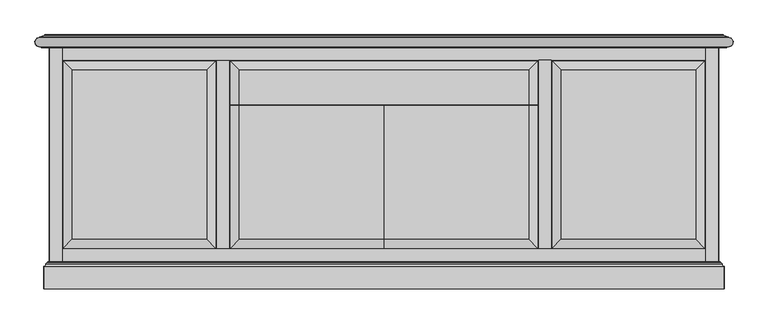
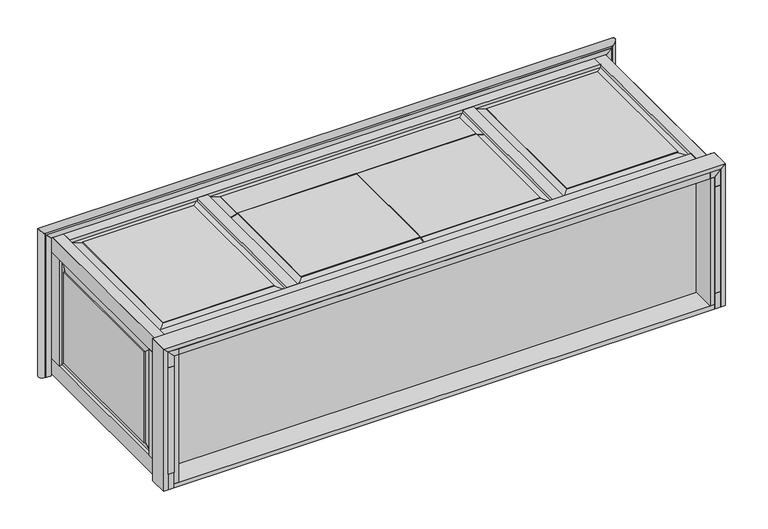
"""IFC4 building model written with IfcOpenShell, lengths in millimetres: proxy geometry, CAMBRIDGE^CREDENZA 2_26x96 4 DOOR 1 DRAWER-PARTS SOLID."""

from ifc_helpers import new_model, si_unit, frame, origin, place, context, project, spatial, polyline, circle_curve, ellipse_curve, outline, extrude, faceted_brep, source, transform, mapped, element, save
from ifc_brep_helpers import plane_surface, cylinder_surface, revolved_surface, advanced_brep


def generic_models_ff0544f8(model_context):
    return source(origin(), model_context, "Body", "SolidModel", [
        extrude(outline(polyline([(31.75, -857.25), (6.35, -857.25), (6.35, -717.55), (31.75, -717.55), (31.75, -857.25)])), frame((0.0, 0.0, -546.1), z_axis=(0.0, 0.0, 1.0), x_axis=(1.0, 0.0, 0.0)), (0.0, 0.0, 1.0), 476.25),
        extrude(outline(polyline([(0.0, 2298.7), (-25.4, 2298.7), (-25.4, 2317.75), (0.0, 2343.15), (0.0, 2298.7)])), frame((0.0, -857.25, 0.0), z_axis=(0.0, 1.0, 0.0), x_axis=(0.0, 0.0, 1.0)), (0.0, 0.0, 1.0), 857.25),
        extrude(outline(polyline([(-25.4, 31.75), (-25.4, 50.8), (0.0, 50.8), (0.0, 6.35), (-25.4, 31.75)])), frame((0.0, -857.25, 0.0), z_axis=(0.0, 1.0, 0.0), x_axis=(0.0, 0.0, 1.0)), (0.0, 0.0, 1.0), 857.25),
        extrude(outline(polyline([(2343.15, -857.25), (2317.75, -857.25), (2317.75, -717.55), (2343.15, -717.55), (2343.15, -857.25)])), frame((0.0, 0.0, -546.1), z_axis=(0.0, 0.0, 1.0), x_axis=(1.0, 0.0, 0.0)), (0.0, 0.0, 1.0), 476.25),
        extrude(outline(polyline([(0.0, 6.35), (-69.85, 6.35), (-69.85, 31.75), (-25.4, 31.75), (0.0, 6.35)])), frame((0.0, -857.25, 0.0), z_axis=(0.0, 1.0, 0.0), x_axis=(0.0, 0.0, 1.0)), (0.0, 0.0, 1.0), 857.25),
        faceted_brep([(2263.775, -682.625, -3.175), (2295.525, -714.375, -11.6823869), (2295.525, -60.325, -11.6823869), (2263.775, -92.075, -3.175), (2263.775, -682.625, 0.0), (2263.775, -92.075, 0.0), (1793.875, -682.625, -3.175), (1762.125, -714.375, -11.6823869), (1793.875, -682.625, 0.0), (1793.875, -92.075, -3.175), (1762.125, -60.325, -11.6823869), (1793.875, -92.075, 0.0), (2295.525, -60.325, -19.05), (1762.125, -60.325, -19.05), (2295.525, -714.375, -19.05), (1762.125, -714.375, -19.05)], [[[0, 1, 2, 3]], [[4, 0, 3, 5]], [[6, 7, 1, 0]], [[8, 6, 0, 4]], [[9, 10, 7, 6]], [[11, 9, 6, 8]], [[3, 2, 10, 9]], [[5, 3, 9, 11]], [[10, 2, 12, 13]], [[2, 1, 14, 12]], [[7, 10, 13, 15]], [[1, 7, 15, 14]], [[4, 5, 11, 8]], [[14, 15, 13, 12]]]),
        extrude(outline(polyline([(2343.15, -857.25), (2317.75, -857.25), (2317.75, 0.0), (2343.15, 0.0), (2343.15, -857.25)])), frame((0.0, 0.0, -615.95), z_axis=(0.0, 0.0, 1.0), x_axis=(1.0, 0.0, 0.0)), (0.0, 0.0, 1.0), 69.85),
        faceted_brep([(555.625, -682.625, 0.0), (555.625, -682.625, -3.175), (555.625, -92.075, -3.175), (555.625, -92.075, 0.0), (587.375, -714.375, -11.6823869), (587.375, -60.325, -11.6823869), (85.725, -682.625, 0.0), (85.725, -682.625, -3.175), (53.975, -714.375, -11.6823869), (85.725, -92.075, 0.0), (85.725, -92.075, -3.175), (53.975, -60.325, -11.6823869), (587.375, -60.325, -19.05), (53.975, -60.325, -19.05), (587.375, -714.375, -19.05), (53.975, -714.375, -19.05)], [[[0, 1, 2, 3]], [[1, 4, 5, 2]], [[6, 7, 1, 0]], [[7, 8, 4, 1]], [[9, 10, 7, 6]], [[10, 11, 8, 7]], [[2, 5, 11, 10]], [[3, 2, 10, 9]], [[11, 5, 12, 13]], [[5, 4, 14, 12]], [[8, 11, 13, 15]], [[4, 8, 15, 14]], [[0, 3, 9, 6]], [[14, 15, 13, 12]]]),
        extrude(outline(polyline([(0.0, 2343.15), (-25.4, 2317.75), (-69.85, 2317.75), (-69.85, 2343.15), (0.0, 2343.15)])), frame((0.0, -857.25, 0.0), z_axis=(0.0, 1.0, 0.0), x_axis=(0.0, 0.0, 1.0)), (0.0, 0.0, 1.0), 857.25),
        extrude(outline(polyline([(2298.7, -717.55), (2298.7, -857.25), (50.8, -857.25), (50.8, -717.55), (2298.7, -717.55)])), frame((0.0, 0.0, -25.4), z_axis=(0.0, 0.0, 1.0), x_axis=(1.0, 0.0, 0.0)), (0.0, 0.0, 1.0), 25.4),
        extrude(outline(polyline([(1714.5, -57.15), (1758.95, -57.15), (1758.95, -717.55), (1714.5, -717.55), (1714.5, -57.15)])), frame((0.0, 0.0, -25.4), z_axis=(0.0, 0.0, 1.0), x_axis=(1.0, 0.0, 0.0)), (0.0, 0.0, 1.0), 25.4),
        extrude(outline(polyline([(31.75, 0.0), (50.8, 0.0), (50.8, -857.25), (31.75, -857.25), (31.75, 0.0)])), frame((0.0, 0.0, -596.9), z_axis=(0.0, 0.0, 1.0), x_axis=(1.0, 0.0, 0.0)), (0.0, 0.0, 1.0), 571.5),
        advanced_brep(
        [(2362.2, -777.875, 19.05), (2355.85, -771.525, 12.7), (-6.35, -771.525, 12.7), (-12.7, -777.875, 19.05), (2349.5, -765.175, 6.35), (0.0, -765.175, 6.35), (2349.5, -762.0, 6.35), (0.0, -762.0, 6.35), (2343.15, -762.0, 0.0), (6.35, -762.0, 0.0), (2362.2, -857.25, 19.05), (2343.15, -857.25, 0.0), (-12.7, -857.25, 19.05), (6.35, -857.25, 0.0)],
        [
            (0, 1, ellipse_curve(frame((2362.2, -771.525, 19.05), z_axis=(0.7071067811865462, 0.0, -0.7071067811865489), x_axis=(-0.7071067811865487, 0.0, -0.7071067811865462)), 8.9802561, 6.35)),
            (1, 2),
            (2, 3, ellipse_curve(frame((-12.7, -771.525, 19.05), z_axis=(-0.7071067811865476, 0.0, -0.7071067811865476), x_axis=(-0.7071067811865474, 0.0, 0.7071067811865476)), 8.9802561, 6.35)),
            (3, 0),
            (1, 4, ellipse_curve(frame((2349.5, -771.525, 6.35), z_axis=(-0.7071067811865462, 0.0, 0.7071067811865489), x_axis=(-0.7071067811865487, 0.0, -0.7071067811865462)), 8.9802561, 6.35)),
            (4, 5),
            (5, 2, ellipse_curve(frame((0.0, -771.525, 6.35), z_axis=(0.7071067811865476, 0.0, 0.7071067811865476), x_axis=(-0.7071067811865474, 0.0, 0.7071067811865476)), 8.9802561, 6.35)),
            (4, 6),
            (6, 7),
            (7, 5),
            (6, 8),
            (8, 9),
            (9, 7),
            (0, 10),
            (10, 11),
            (11, 8),
            (3, 12),
            (12, 10),
            (9, 13),
            (13, 12),
            (11, 13),
        ],
        [
            revolved_surface(polyline([(-19.04999998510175, -771.525, 25.4), (2368.5499999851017, -771.525, 25.4)]), (2362.2, -771.525, 19.05), (-1.0, 0.0, 0.0)),
            cylinder_surface(frame((2349.5, -771.525, 6.35), z_axis=(-1.0, 0.0, 0.0), x_axis=(0.0, 0.0, 1.0)), 6.35),
            plane_surface(frame((2349.5, -762.0, 6.35), z_axis=(0.0, 0.0, 1.0), x_axis=(0.0, -1.0, 0.0))),
            plane_surface(frame((1174.75, -762.0, 9.525), z_axis=(0.0, 1.0, 0.0), x_axis=(0.0, 0.0, 1.0))),
            plane_surface(frame((2362.2, -857.25, 19.05), z_axis=(0.7071067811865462, 0.0, -0.7071067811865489), x_axis=(-0.7071067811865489, 0.0, -0.7071067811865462))),
            plane_surface(frame((-12.7, -857.25, 19.05), z_axis=(0.0, 0.0, 1.0), x_axis=(1.0, 0.0, 0.0))),
            plane_surface(frame((6.35, -857.25, 0.0), z_axis=(-0.7071067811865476, 0.0, -0.7071067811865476), x_axis=(-0.7071067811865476, 0.0, 0.7071067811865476))),
            plane_surface(frame((2343.15, -857.25, 0.0), z_axis=(0.0, 0.0, -1.0), x_axis=(-1.0, 0.0, 0.0))),
            plane_surface(frame((1174.75, -857.25, 9.525), z_axis=(0.0, -1.0, 0.0), x_axis=(0.0, 0.0, -1.0))),
        ],
        [
            (0, [[1, 2, 3, 4]]),
            (1, [[5, 6, 7, -2]]),
            (2, [[8, 9, 10, -6]]),
            (3, [[-9, 11, 12, 13]]),
            (4, [[-8, -5, -1, 14, 15, 16, -11]]),
            (5, [[-4, 17, 18, -14]]),
            (6, [[-10, -13, 19, 20, -17, -3, -7]]),
            (7, [[21, -19, -12, -16]]),
            (8, [[-15, -18, -20, -21]]),
        ],
    ),
        advanced_brep(
        [(2362.2, -777.875, -615.95), (2355.85, -771.525, -615.95), (2355.85, -771.525, 12.7), (2362.2, -777.875, 19.05), (2349.5, -765.175, -615.95), (2349.5, -765.175, 6.35), (2349.5, -762.0, -615.95), (2349.5, -762.0, 6.35), (2343.15, -762.0, 0.0), (2343.15, -857.25, 0.0), (2362.2, -857.25, 19.05), (2343.15, -762.0, -615.95), (2343.15, -857.25, -615.95), (2362.2, -857.25, -615.95)],
        [
            (0, 1, circle_curve(frame((2362.2, -771.525, -615.95), z_axis=(0.0, 0.0, -1.0), x_axis=(0.0, -1.0, 0.0)), 6.35)),
            (1, 2),
            (2, 3, ellipse_curve(frame((2362.2, -771.525, 19.05), z_axis=(-0.7071067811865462, 0.0, 0.7071067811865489), x_axis=(0.707106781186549, 0.0, 0.707106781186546)), 8.9802561, 6.35)),
            (3, 0),
            (1, 4, circle_curve(frame((2349.5, -771.525, -615.95), z_axis=(0.0, 0.0, 1.0), x_axis=(0.0, -1.0, 0.0)), 6.35)),
            (4, 5),
            (5, 2, ellipse_curve(frame((2349.5, -771.525, 6.35), z_axis=(0.7071067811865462, 0.0, -0.7071067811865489), x_axis=(0.707106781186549, 0.0, 0.707106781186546)), 8.9802561, 6.35)),
            (4, 6),
            (6, 7),
            (7, 5),
            (7, 8),
            (8, 9),
            (9, 10),
            (10, 3),
            (6, 11),
            (11, 8),
            (12, 9),
            (11, 12),
            (0, 13),
            (13, 12),
            (10, 13),
        ],
        [
            revolved_surface(polyline([(2362.2, -777.875, 25.399999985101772), (2362.2, -777.875, -615.95)]), (2362.2, -771.525, -615.95), (0.0, 0.0, 1.0)),
            cylinder_surface(frame((2349.5, -771.525, -615.95), z_axis=(0.0, 0.0, 1.0), x_axis=(0.0, -1.0, 0.0)), 6.35),
            plane_surface(frame((2349.5, -762.0, -615.95), z_axis=(1.0, 0.0, 0.0), x_axis=(0.0, -1.0, 0.0))),
            plane_surface(frame((2343.15, -857.25, 0.0), z_axis=(-0.7071067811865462, 0.0, 0.7071067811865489), x_axis=(0.7071067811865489, 0.0, 0.7071067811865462))),
            plane_surface(frame((2352.675, -762.0, -298.45), z_axis=(0.0, 1.0, 0.0), x_axis=(0.0, 0.0, 1.0))),
            plane_surface(frame((2343.15, -857.25, -615.95), z_axis=(-1.0, 0.0, 0.0), x_axis=(0.0, 0.0, 1.0))),
            plane_surface(frame((2362.2, -857.25, -615.95), z_axis=(0.0, 0.0, -1.0), x_axis=(-1.0, 0.0, 0.0))),
            plane_surface(frame((2362.2, -857.25, 19.05), z_axis=(1.0, 0.0, 0.0), x_axis=(0.0, 0.0, -1.0))),
            plane_surface(frame((2352.675, -857.25, -298.45), z_axis=(0.0, -1.0, 0.0), x_axis=(0.0, 0.0, -1.0))),
        ],
        [
            (0, [[1, 2, 3, 4]]),
            (1, [[5, 6, 7, -2]]),
            (2, [[8, 9, 10, -6]]),
            (3, [[-3, -7, -10, 11, 12, 13, 14]]),
            (4, [[-9, 15, 16, -11]]),
            (5, [[17, -12, -16, 18]]),
            (6, [[-1, 19, 20, -18, -15, -8, -5]]),
            (7, [[-4, -14, 21, -19]]),
            (8, [[-21, -13, -17, -20]]),
        ],
    ),
        extrude(outline(polyline([(6.35, 0.0), (31.75, 0.0), (31.75, -57.15), (6.35, -57.15), (6.35, 0.0)])), frame((0.0, 0.0, -546.1), z_axis=(0.0, 0.0, 1.0), x_axis=(1.0, 0.0, 0.0)), (0.0, 0.0, 1.0), 476.25),
        extrude(outline(polyline([(50.8, -717.55), (2298.7, -717.55), (2298.7, -755.65), (50.8, -755.65), (50.8, -717.55)])), frame((0.0, 0.0, -596.9), z_axis=(0.0, 0.0, 1.0), x_axis=(1.0, 0.0, 0.0)), (0.0, 0.0, 1.0), 571.5),
        faceted_brep([(2343.15, -682.625, -511.175), (2339.975, -682.625, -511.175), (2339.975, -92.075, -511.175), (2343.15, -92.075, -511.175), (2331.4676131, -714.375, -542.925), (2331.4676131, -60.325, -542.925), (2324.1, -714.375, -542.925), (2324.1, -60.325, -542.925), (2343.15, -682.625, -104.775), (2339.975, -682.625, -104.775), (2331.4676131, -714.375, -73.025), (2324.1, -714.375, -73.025), (2324.1, -57.15, -546.1), (2324.1, -57.15, -69.85), (2324.1, -717.55, -69.85), (2324.1, -717.55, -546.1), (2324.1, -60.325, -73.025), (2343.15, -92.075, -104.775), (2339.975, -92.075, -104.775), (2331.4676131, -60.325, -73.025), (2317.75, -717.55, -546.1), (2317.75, -57.15, -546.1), (2317.75, -717.55, -69.85), (2317.75, -57.15, -69.85)], [[[0, 1, 2, 3]], [[1, 4, 5, 2]], [[4, 6, 7, 5]], [[8, 9, 1, 0]], [[9, 10, 4, 1]], [[10, 11, 6, 4]], [[12, 13, 14, 15], [11, 16, 7, 6]], [[17, 18, 9, 8]], [[18, 19, 10, 9]], [[19, 16, 11, 10]], [[3, 2, 18, 17]], [[2, 5, 19, 18]], [[5, 7, 16, 19]], [[12, 15, 20, 21]], [[15, 14, 22, 20]], [[14, 13, 23, 22]], [[13, 12, 21, 23]], [[0, 3, 17, 8]], [[20, 22, 23, 21]]]),
        faceted_brep([(6.35, -682.625, -104.775), (9.525, -682.625, -104.775), (9.525, -92.075, -104.775), (6.35, -92.075, -104.775), (18.0323869, -714.375, -73.025), (18.0323869, -60.325, -73.025), (25.4, -714.375, -73.025), (25.4, -60.325, -73.025), (6.35, -682.625, -511.175), (9.525, -682.625, -511.175), (18.0323869, -714.375, -542.925), (25.4, -714.375, -542.925), (25.4, -57.15, -69.85), (25.4, -57.15, -546.1), (25.4, -717.55, -546.1), (25.4, -717.55, -69.85), (25.4, -60.325, -542.925), (6.35, -92.075, -511.175), (9.525, -92.075, -511.175), (18.0323869, -60.325, -542.925), (31.75, -717.55, -69.85), (31.75, -57.15, -69.85), (31.75, -717.55, -546.1), (31.75, -57.15, -546.1)], [[[0, 1, 2, 3]], [[1, 4, 5, 2]], [[4, 6, 7, 5]], [[8, 9, 1, 0]], [[9, 10, 4, 1]], [[10, 11, 6, 4]], [[12, 13, 14, 15], [11, 16, 7, 6]], [[17, 18, 9, 8]], [[18, 19, 10, 9]], [[19, 16, 11, 10]], [[3, 2, 18, 17]], [[2, 5, 19, 18]], [[5, 7, 16, 19]], [[12, 15, 20, 21]], [[15, 14, 22, 20]], [[14, 13, 23, 22]], [[13, 12, 21, 23]], [[0, 3, 17, 8]], [[20, 22, 23, 21]]]),
        advanced_brep(
        [(-27.4410714, -9.5412197, 27.4410714), (-28.575, 22.1682311, 28.575), (-28.575, 22.1682311, -615.95), (-27.4410714, -9.5412197, -615.95), (-28.575, 23.7557311, 28.575), (-28.575, 23.7557311, -615.95), (-13.7031721, 29.1686338, 13.7031721), (-13.7031721, 29.1686338, -615.95), (-10.5028814, 31.75, 10.5028814), (-10.5028814, 31.75, -615.95), (-21.4882387, -12.7, 21.4882387), (-21.4882387, -12.7, -615.95), (0.0, -12.7, -615.95), (0.0, -12.7, 0.0), (0.0, 31.75, -615.95), (0.0, 31.75, 0.0)],
        [
            (0, 1, ellipse_curve(frame((-28.575, 6.2932311, 28.575), z_axis=(-0.7071067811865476, 0.0, -0.7071067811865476), x_axis=(0.7071067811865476, 0.0, -0.7071067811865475)), 22.4506403, 15.875)),
            (1, 2),
            (2, 3, circle_curve(frame((-28.575, 6.2932311, -615.95), z_axis=(0.0, 0.0, 1.0), x_axis=(-1.0, 0.0, 0.0)), 15.875)),
            (3, 0),
            (1, 4),
            (4, 5),
            (5, 2),
            (4, 6),
            (6, 7),
            (7, 5),
            (6, 8, ellipse_curve(frame((-15.875, 35.1356819, 15.875), z_axis=(0.7071067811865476, 0.0, 0.7071067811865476), x_axis=(0.7071067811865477, 0.0, -0.7071067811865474)), 8.9802561, 6.35)),
            (8, 9),
            (9, 7, circle_curve(frame((-15.875, 35.1356819, -615.95), z_axis=(0.0, 0.0, -1.0), x_axis=(1.0, 0.0, 0.0)), 6.35)),
            (10, 0, ellipse_curve(frame((-26.9875, -15.875, 26.9875), z_axis=(0.7071067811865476, 0.0, 0.7071067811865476), x_axis=(0.7071067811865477, 0.0, -0.7071067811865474)), 8.9802561, 6.35)),
            (3, 11, circle_curve(frame((-26.9875, -15.875, -615.95), z_axis=(0.0, 0.0, -1.0), x_axis=(1.0, 0.0, 0.0)), 6.35)),
            (11, 10),
            (11, 12),
            (12, 13),
            (13, 10),
            (9, 14),
            (14, 12),
            (13, 15),
            (15, 8),
            (14, 15),
        ],
        [
            cylinder_surface(frame((-28.575, 6.2932311, 28.575), z_axis=(0.0, 0.0, -1.0), x_axis=(-1.0, 0.0, 0.0)), 15.875),
            plane_surface(frame((-28.575, 23.7557311, 28.575), z_axis=(-1.0, 0.0, 0.0), x_axis=(0.0, -1.0, 0.0))),
            plane_surface(frame((-13.7031721, 29.1686338, 13.7031721), z_axis=(-0.3420201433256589, 0.939692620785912, 0.0), x_axis=(-0.6847910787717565, -0.24924356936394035, 0.6847910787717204))),
            revolved_surface(polyline([(-9.525, 35.1356819, -615.95), (-9.525, 35.1356819, 22.224999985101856)]), (-15.875, 35.1356819, 15.875), (0.0, 0.0, -1.0)),
            revolved_surface(polyline([(-20.637500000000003, -15.875, -615.95), (-20.637500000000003, -15.875, 33.33749998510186)]), (-26.9875, -15.875, 26.9875), (0.0, 0.0, -1.0)),
            plane_surface(frame((-22.225, -12.7, -285.75), z_axis=(0.0, -1.0, 0.0), x_axis=(0.0, 0.0, -1.0))),
            plane_surface(frame((-44.45, 31.75, -615.95), z_axis=(0.0, 0.0, -1.0), x_axis=(1.0, 0.0, 0.0))),
            plane_surface(frame((0.0, 31.75, 0.0), z_axis=(0.7071067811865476, 0.0, 0.7071067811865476), x_axis=(-0.7071067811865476, 0.0, 0.7071067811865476))),
            plane_surface(frame((0.0, 31.75, -615.95), z_axis=(1.0, 0.0, 0.0), x_axis=(0.0, 0.0, 1.0))),
            plane_surface(frame((-22.225, 31.75, -285.75), z_axis=(0.0, 1.0, 0.0), x_axis=(0.0, 0.0, 1.0))),
        ],
        [
            (0, [[1, 2, 3, 4]]),
            (1, [[5, 6, 7, -2]]),
            (2, [[8, 9, 10, -6]]),
            (3, [[11, 12, 13, -9]]),
            (4, [[14, -4, 15, 16]]),
            (5, [[-16, 17, 18, 19]]),
            (6, [[-15, -3, -7, -10, -13, 20, 21, -17]]),
            (7, [[-14, -19, 22, 23, -11, -8, -5, -1]]),
            (8, [[24, -22, -18, -21]]),
            (9, [[-12, -23, -24, -20]]),
        ],
    ),
        faceted_brep([(1711.325, -212.725, -11.6823869), (1711.325, -212.725, -19.05), (1711.325, -60.325, -19.05), (1711.325, -60.325, -11.6823869), (1679.575, -212.725, -3.175), (1679.575, -92.075, -3.175), (1679.575, -212.725, 0.0), (1679.575, -92.075, 0.0), (638.175, -212.725, -19.05), (638.175, -60.325, -19.05), (669.925, -212.725, 0.0), (669.925, -212.725, -3.175), (638.175, -212.725, -11.6823869), (638.175, -60.325, -11.6823869), (669.925, -92.075, 0.0), (669.925, -92.075, -3.175)], [[[0, 1, 2, 3]], [[4, 0, 3, 5]], [[6, 4, 5, 7]], [[1, 8, 9, 2]], [[8, 1, 0, 4, 6, 10, 11, 12]], [[8, 12, 13, 9]], [[13, 3, 2, 9]], [[10, 6, 7, 14]], [[11, 10, 14, 15]], [[12, 11, 15, 13]], [[13, 15, 5, 3]], [[15, 14, 7, 5]]]),
        extrude(outline(polyline([(2317.75, -857.25), (31.75, -857.25), (31.75, 0.0), (2317.75, 0.0), (2317.75, -857.25)])), frame((0.0, 0.0, -615.95), z_axis=(0.0, 0.0, 1.0), x_axis=(1.0, 0.0, 0.0)), (0.0, 0.0, 1.0), 19.05),
        extrude(outline(polyline([(2317.75, 0.0), (2343.15, 0.0), (2343.15, -57.15), (2317.75, -57.15), (2317.75, 0.0)])), frame((0.0, 0.0, -546.1), z_axis=(0.0, 0.0, 1.0), x_axis=(1.0, 0.0, 0.0)), (0.0, 0.0, 1.0), 476.25),
        faceted_brep([(1173.1625, -215.9, -19.05), (638.175, -215.9, -19.05), (638.175, -215.9, -11.6823869), (669.925, -215.9, -3.175), (669.925, -215.9, 0.0), (1173.1625, -215.9, 0.0), (1173.1625, -714.375, -19.05), (638.175, -714.375, -19.05), (638.175, -714.375, -11.6823869), (669.925, -682.625, -3.175), (669.925, -682.625, 0.0), (1173.1625, -682.625, 0.0), (1173.1625, -682.625, -3.175), (1173.1625, -714.375, -11.6823869)], [[[0, 1, 2, 3, 4, 5]], [[1, 0, 6, 7]], [[2, 1, 7, 8]], [[3, 2, 8, 9]], [[4, 3, 9, 10]], [[5, 4, 10, 11]], [[0, 5, 11, 12, 13, 6]], [[13, 8, 7, 6]], [[13, 12, 9, 8]], [[12, 11, 10, 9]]]),
        extrude(outline(polyline([(50.8, 0.0), (2298.7, 0.0), (2298.7, -57.15), (50.8, -57.15), (50.8, 0.0)])), frame((0.0, 0.0, -25.4), z_axis=(0.0, 0.0, 1.0), x_axis=(1.0, 0.0, 0.0)), (0.0, 0.0, 1.0), 25.4),
        extrude(outline(polyline([(590.55, -57.15), (635.0, -57.15), (635.0, -717.55), (590.55, -717.55), (590.55, -57.15)])), frame((0.0, 0.0, -25.4), z_axis=(0.0, 0.0, 1.0), x_axis=(1.0, 0.0, 0.0)), (0.0, 0.0, 1.0), 25.4),
        advanced_brep(
        [(2376.9410714, -9.5412197, 27.4410714), (2378.075, 22.1682311, 28.575), (-28.575, 22.1682311, 28.575), (-27.4410714, -9.5412197, 27.4410714), (2378.075, 23.7557311, 28.575), (-28.575, 23.7557311, 28.575), (2363.2031721, 29.1686338, 13.7031721), (-13.7031721, 29.1686338, 13.7031721), (2360.0028814, 31.75, 10.5028814), (-10.5028814, 31.75, 10.5028814), (2370.9882387, -12.7, 21.4882387), (-21.4882387, -12.7, 21.4882387), (2349.5, -12.7, 0.0), (2349.5, 31.75, 0.0), (0.0, -12.7, 0.0), (0.0, 31.75, 0.0)],
        [
            (0, 1, ellipse_curve(frame((2378.075, 6.2932311, 28.575), z_axis=(-0.7071067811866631, 0.0, 0.707106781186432), x_axis=(-0.7071067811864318, 0.0, -0.7071067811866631)), 22.4506403, 15.875)),
            (1, 2),
            (2, 3, ellipse_curve(frame((-28.575, 6.2932311, 28.575), z_axis=(0.7071067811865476, 0.0, 0.7071067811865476), x_axis=(-0.7071067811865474, 0.0, 0.7071067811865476)), 22.4506403, 15.875)),
            (3, 0),
            (1, 4),
            (4, 5),
            (5, 2),
            (4, 6),
            (6, 7),
            (7, 5),
            (6, 8, ellipse_curve(frame((2365.375, 35.1356819, 15.875), z_axis=(0.7071067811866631, 0.0, -0.707106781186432), x_axis=(-0.7071067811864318, 0.0, -0.7071067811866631)), 8.9802561, 6.35)),
            (8, 9),
            (9, 7, ellipse_curve(frame((-15.875, 35.1356819, 15.875), z_axis=(-0.7071067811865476, 0.0, -0.7071067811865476), x_axis=(-0.7071067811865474, 0.0, 0.7071067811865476)), 8.9802561, 6.35)),
            (10, 0, ellipse_curve(frame((2376.4875, -15.875, 26.9875), z_axis=(0.7071067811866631, 0.0, -0.707106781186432), x_axis=(-0.7071067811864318, 0.0, -0.7071067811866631)), 8.9802561, 6.35)),
            (3, 11, ellipse_curve(frame((-26.9875, -15.875, 26.9875), z_axis=(-0.7071067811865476, 0.0, -0.7071067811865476), x_axis=(-0.7071067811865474, 0.0, 0.7071067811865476)), 8.9802561, 6.35)),
            (11, 10),
            (10, 12),
            (12, 13),
            (13, 8),
            (11, 14),
            (14, 12),
            (15, 13),
            (14, 15),
            (9, 15),
        ],
        [
            cylinder_surface(frame((2378.075, 6.2932311, 28.575), z_axis=(-1.0, 0.0, 0.0), x_axis=(0.0, 0.0, 1.0)), 15.875),
            plane_surface(frame((2378.075, 23.7557311, 28.575), z_axis=(0.0, 0.0, 1.0), x_axis=(0.0, -1.0, 0.0))),
            plane_surface(frame((2363.2031721, 29.1686338, 13.7031721), z_axis=(0.0, 0.939692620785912, 0.3420201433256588), x_axis=(0.6847910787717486, -0.24924356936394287, 0.6847910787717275))),
            revolved_surface(polyline([(-22.22499998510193, 35.1356819, 9.525), (2371.724999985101, 35.1356819, 9.525)]), (2365.375, 35.1356819, 15.875), (-1.0, 0.0, 0.0)),
            revolved_surface(polyline([(-33.33749998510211, -15.875, 20.637500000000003), (2382.837499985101, -15.875, 20.637500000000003)]), (2376.4875, -15.875, 26.9875), (-1.0, 0.0, 0.0)),
            plane_surface(frame((2349.5, 31.75, 0.0), z_axis=(0.7071067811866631, 0.0, -0.707106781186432), x_axis=(0.707106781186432, 0.0, 0.7071067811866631))),
            plane_surface(frame((1174.75, -12.7, 22.225), z_axis=(0.0, -1.0, 0.0), x_axis=(0.0, 0.0, -1.0))),
            plane_surface(frame((0.0, 31.75, 0.0), z_axis=(0.0, 0.0, -1.0), x_axis=(1.0, 0.0, 0.0))),
            plane_surface(frame((-44.45, 31.75, 44.45), z_axis=(-0.7071067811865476, 0.0, -0.7071067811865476), x_axis=(0.7071067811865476, 0.0, -0.7071067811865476))),
            plane_surface(frame((1174.75, 31.75, 22.225), z_axis=(0.0, 1.0, 0.0), x_axis=(0.0, 0.0, 1.0))),
        ],
        [
            (0, [[1, 2, 3, 4]]),
            (1, [[5, 6, 7, -2]]),
            (2, [[8, 9, 10, -6]]),
            (3, [[11, 12, 13, -9]]),
            (4, [[14, -4, 15, 16]]),
            (5, [[-11, -8, -5, -1, -14, 17, 18, 19]]),
            (6, [[-16, 20, 21, -17]]),
            (7, [[22, -18, -21, 23]]),
            (8, [[-13, 24, -23, -20, -15, -3, -7, -10]]),
            (9, [[-12, -19, -22, -24]]),
        ],
    ),
        extrude(outline(polyline([(2349.5, 0.0), (0.0, 0.0), (0.0, 31.75), (2349.5, 31.75), (2349.5, 0.0)])), frame((0.0, 0.0, -615.95), z_axis=(0.0, 0.0, 1.0), x_axis=(1.0, 0.0, 0.0)), (0.0, 0.0, 1.0), 615.95),
        advanced_brep(
        [(-12.7, -777.875, 19.05), (-6.35, -771.525, 12.7), (-6.35, -771.525, -615.95), (-12.7, -777.875, -615.95), (0.0, -765.175, 6.35), (0.0, -765.175, -615.95), (0.0, -762.0, 6.35), (0.0, -762.0, -615.95), (6.35, -762.0, 0.0), (6.35, -762.0, -615.95), (-12.7, -857.25, 19.05), (6.35, -857.25, 0.0), (6.35, -857.25, -615.95), (-12.7, -857.25, -615.95)],
        [
            (0, 1, ellipse_curve(frame((-12.7, -771.525, 19.05), z_axis=(0.7071067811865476, 0.0, 0.7071067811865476), x_axis=(0.7071067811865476, 0.0, -0.7071067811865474)), 8.9802561, 6.35)),
            (1, 2),
            (2, 3, circle_curve(frame((-12.7, -771.525, -615.95), z_axis=(0.0, 0.0, -1.0), x_axis=(-1.0, 0.0, 0.0)), 6.35)),
            (3, 0),
            (1, 4, ellipse_curve(frame((0.0, -771.525, 6.35), z_axis=(-0.7071067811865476, 0.0, -0.7071067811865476), x_axis=(0.7071067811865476, 0.0, -0.7071067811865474)), 8.9802561, 6.35)),
            (4, 5),
            (5, 2, circle_curve(frame((0.0, -771.525, -615.95), z_axis=(0.0, 0.0, 1.0), x_axis=(-1.0, 0.0, 0.0)), 6.35)),
            (4, 6),
            (6, 7),
            (7, 5),
            (6, 8),
            (8, 9),
            (9, 7),
            (0, 10),
            (10, 11),
            (11, 8),
            (9, 12),
            (12, 13),
            (13, 3),
            (11, 12),
            (13, 10),
        ],
        [
            revolved_surface(polyline([(-19.049999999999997, -771.525, -615.95), (-19.049999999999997, -771.525, 25.399999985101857)]), (-12.7, -771.525, 19.05), (0.0, 0.0, -1.0)),
            cylinder_surface(frame((0.0, -771.525, 6.35), z_axis=(0.0, 0.0, -1.0), x_axis=(-1.0, 0.0, 0.0)), 6.35),
            plane_surface(frame((0.0, -762.0, 6.35), z_axis=(-1.0, 0.0, 0.0), x_axis=(0.0, -1.0, 0.0))),
            plane_surface(frame((-3.175, -762.0, -298.45), z_axis=(0.0, 1.0, 0.0), x_axis=(0.0, 0.0, 1.0))),
            plane_surface(frame((-12.7, -857.25, 19.05), z_axis=(0.7071067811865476, 0.0, 0.7071067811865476), x_axis=(0.7071067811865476, 0.0, -0.7071067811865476))),
            plane_surface(frame((6.35, -857.25, -615.95), z_axis=(0.0, 0.0, -1.0), x_axis=(-1.0, 0.0, 0.0))),
            plane_surface(frame((6.35, -857.25, 0.0), z_axis=(1.0, 0.0, 0.0), x_axis=(0.0, 0.0, -1.0))),
            plane_surface(frame((-12.7, -857.25, -615.95), z_axis=(-1.0, 0.0, 0.0), x_axis=(0.0, 0.0, 1.0))),
            plane_surface(frame((-3.175, -857.25, -298.45), z_axis=(0.0, -1.0, 0.0), x_axis=(0.0, 0.0, -1.0))),
        ],
        [
            (0, [[1, 2, 3, 4]]),
            (1, [[5, 6, 7, -2]]),
            (2, [[8, 9, 10, -6]]),
            (3, [[-9, 11, 12, 13]]),
            (4, [[-8, -5, -1, 14, 15, 16, -11]]),
            (5, [[-10, -13, 17, 18, 19, -3, -7]]),
            (6, [[20, -17, -12, -16]]),
            (7, [[-4, -19, 21, -14]]),
            (8, [[-21, -18, -20, -15]]),
        ],
    ),
        extrude(outline(polyline([(31.75, -857.25), (6.35, -857.25), (6.35, 0.0), (31.75, 0.0), (31.75, -857.25)])), frame((0.0, 0.0, -615.95), z_axis=(0.0, 0.0, 1.0), x_axis=(1.0, 0.0, 0.0)), (0.0, 0.0, 1.0), 69.85),
        faceted_brep([(1679.575, -215.9, -3.175), (1711.325, -215.9, -11.6823869), (1711.325, -215.9, -19.05), (1176.3375, -215.9, -19.05), (1176.3375, -215.9, 0.0), (1679.575, -215.9, 0.0), (1679.575, -682.625, -3.175), (1711.325, -714.375, -11.6823869), (1711.325, -714.375, -19.05), (1176.3375, -714.375, -19.05), (1176.3375, -714.375, -11.6823869), (1176.3375, -682.625, -3.175), (1176.3375, -682.625, 0.0), (1679.575, -682.625, 0.0)], [[[0, 1, 2, 3, 4, 5]], [[1, 0, 6, 7]], [[2, 1, 7, 8]], [[3, 2, 8, 9]], [[4, 3, 9, 10, 11, 12]], [[5, 4, 12, 13]], [[0, 5, 13, 6]], [[11, 10, 7, 6]], [[7, 10, 9, 8]], [[12, 11, 6, 13]]]),
        advanced_brep(
        [(2376.9410714, -9.5412197, -615.95), (2378.075, 22.1682311, -615.95), (2378.075, 22.1682311, 28.575), (2376.9410714, -9.5412197, 27.4410714), (2378.075, 23.7557311, -615.95), (2378.075, 23.7557311, 28.575), (2363.2031721, 29.1686338, -615.95), (2363.2031721, 29.1686338, 13.7031721), (2360.0028814, 31.75, -615.95), (2360.0028814, 31.75, 10.5028814), (2370.9882387, -12.7, -615.95), (2370.9882387, -12.7, 21.4882387), (2349.5, -12.7, -615.95), (2349.5, 31.75, -615.95), (2349.5, -12.7, 0.0), (2349.5, 31.75, 0.0)],
        [
            (0, 1, circle_curve(frame((2378.075, 6.2932311, -615.95), z_axis=(0.0, 0.0, 1.0), x_axis=(0.0, -1.0, 0.0)), 15.875)),
            (1, 2),
            (2, 3, ellipse_curve(frame((2378.075, 6.2932311, 28.575), z_axis=(0.7071067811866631, 0.0, -0.707106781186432), x_axis=(0.7071067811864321, 0.0, 0.7071067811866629)), 22.4506403, 15.875)),
            (3, 0),
            (1, 4),
            (4, 5),
            (5, 2),
            (4, 6),
            (6, 7),
            (7, 5),
            (6, 8, circle_curve(frame((2365.375, 35.1356819, -615.95), z_axis=(0.0, 0.0, -1.0), x_axis=(-0.3420201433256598, -0.9396926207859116, 0.0)), 6.35)),
            (8, 9),
            (9, 7, ellipse_curve(frame((2365.375, 35.1356819, 15.875), z_axis=(-0.7071067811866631, 0.0, 0.707106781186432), x_axis=(0.7071067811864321, 0.0, 0.7071067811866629)), 8.9802561, 6.35)),
            (10, 0, circle_curve(frame((2376.4875, -15.875, -615.95), z_axis=(0.0, 0.0, -1.0), x_axis=(-0.8660254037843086, 0.5000000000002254, 0.0)), 6.35)),
            (3, 11, ellipse_curve(frame((2376.4875, -15.875, 26.9875), z_axis=(-0.7071067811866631, 0.0, 0.707106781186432), x_axis=(0.7071067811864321, 0.0, 0.7071067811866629)), 8.9802561, 6.35)),
            (11, 10),
            (10, 12),
            (12, 13),
            (13, 8),
            (11, 14),
            (14, 12),
            (15, 13),
            (14, 15),
            (9, 15),
        ],
        [
            cylinder_surface(frame((2378.075, 6.2932311, -615.95), z_axis=(0.0, 0.0, 1.0), x_axis=(0.0, -1.0, 0.0)), 15.875),
            plane_surface(frame((2378.075, 23.7557311, -615.95), z_axis=(1.0, 0.0, 0.0), x_axis=(0.0, -1.0, 0.0))),
            plane_surface(frame((2363.2031721, 29.1686338, -615.95), z_axis=(0.3420201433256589, 0.939692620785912, 0.0), x_axis=(0.939692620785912, -0.3420201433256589, 0.0))),
            revolved_surface(polyline([(2363.203172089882, 29.168633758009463, 22.22499998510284), (2363.203172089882, 29.168633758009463, -615.95)]), (2365.375, 35.1356819, -615.95), (0.0, 0.0, 1.0)),
            revolved_surface(polyline([(2370.98823868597, -12.69999999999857, 33.337499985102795), (2370.98823868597, -12.69999999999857, -615.95)]), (2376.4875, -15.875, -615.95), (0.0, 0.0, 1.0)),
            plane_surface(frame((2349.5, 31.75, -615.95), z_axis=(0.0, 0.0, -1.0), x_axis=(1.0, 0.0, 0.0))),
            plane_surface(frame((2371.725, -12.7, -285.75), z_axis=(0.0, -1.0, 0.0), x_axis=(0.0, 0.0, -1.0))),
            plane_surface(frame((2349.5, 31.75, 0.0), z_axis=(-1.0, 0.0, 0.0), x_axis=(0.0, 0.0, -1.0))),
            plane_surface(frame((2393.95, 31.75, 44.45), z_axis=(-0.7071067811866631, 0.0, 0.707106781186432), x_axis=(-0.707106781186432, 0.0, -0.7071067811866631))),
            plane_surface(frame((2371.725, 31.75, -285.75), z_axis=(0.0, 1.0, 0.0), x_axis=(0.0, 0.0, 1.0))),
        ],
        [
            (0, [[1, 2, 3, 4]]),
            (1, [[5, 6, 7, -2]]),
            (2, [[8, 9, 10, -6]]),
            (3, [[11, 12, 13, -9]]),
            (4, [[14, -4, 15, 16]]),
            (5, [[-11, -8, -5, -1, -14, 17, 18, 19]]),
            (6, [[-16, 20, 21, -17]]),
            (7, [[22, -18, -21, 23]]),
            (8, [[-13, 24, -23, -20, -15, -3, -7, -10]]),
            (9, [[-12, -19, -22, -24]]),
        ],
    ),
        extrude(outline(polyline([(2298.7, 0.0), (2317.75, 0.0), (2317.75, -857.25), (2298.7, -857.25), (2298.7, 0.0)])), frame((0.0, 0.0, -596.9), z_axis=(0.0, 0.0, 1.0), x_axis=(1.0, 0.0, 0.0)), (0.0, 0.0, 1.0), 571.5),
    ])


if __name__ == "__main__":
    model = new_model("IFC4")
    model_context = context("Model", 3, world=origin())
    ifc_project = project(units=[si_unit("LENGTHUNIT", "METRE", prefix="MILLI")], contexts=[model_context])
    site = spatial("IfcSite", under=ifc_project)
    building = spatial("IfcBuilding", under=site)
    placement = place(None, origin())
    generic_models_shape = generic_models_ff0544f8(model_context)
    element("IfcBuildingElementProxy", 1, Name="CAMBRIDGE^CREDENZA 2_26x96 4 DOOR 1 DRAWER-PARTS SOLID", ObjectType="CAMBRIDGE^CREDENZA 2_26x96 4 DOOR 1 DRAWER-PARTS SOLID", at=placement, inside=building, context=model_context, shape_type="MappedRepresentation", body=[
        mapped(generic_models_shape, transform((0.0, 0.0, 0.0), x_axis=(1.0, 0.0, 0.0), y_axis=(0.0, 1.0, 0.0), z_axis=(0.0, 0.0, 1.0))),
    ])
    save(model, "model.ifc")
